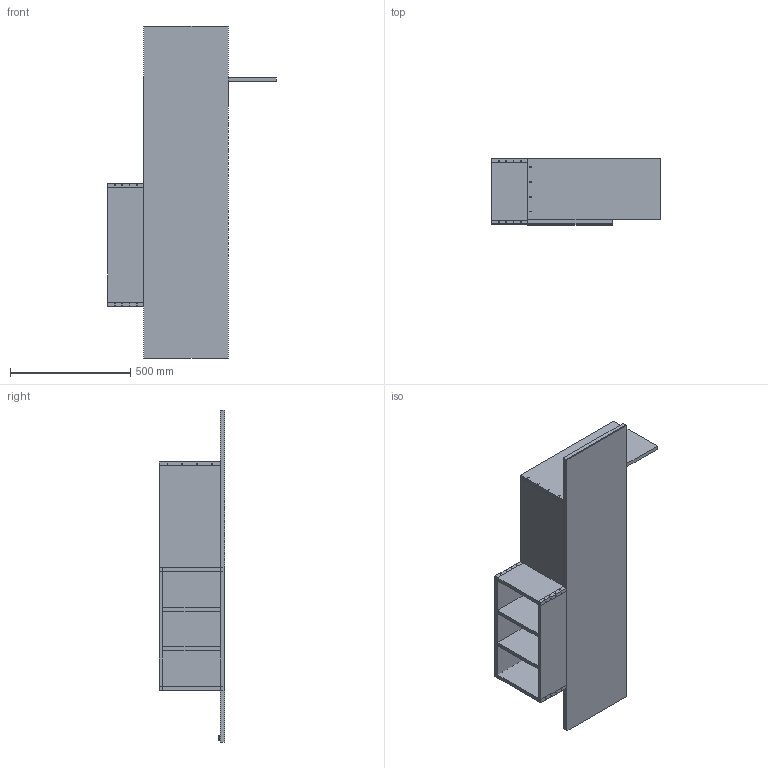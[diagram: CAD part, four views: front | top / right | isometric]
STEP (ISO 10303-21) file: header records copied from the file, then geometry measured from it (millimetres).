
FILE_DESCRIPTION(/* description */ (''),/* implementation_level */ '2;1');
FILE_NAME(/* name */ 'Bon Hallway Cabinet_3D',/* time_stamp */ '2024-09-03T15:55:17+02:00',/* author */ (''),/* organization */ (''),/* preprocessor_version */ 'ST-DEVELOPER v16.5',/* originating_system */ 'Rhino 7.37',/* authorisation */ '');
FILE_SCHEMA (('CONFIG_CONTROL_DESIGN'));
Length unit declared in the file: millimetre
Products named in the file (1): Document
Bounding box: 700 x 274.1 x 1380 mm (x, y, z)
Volume: 22603666.2 mm3; surface area: 3836797 mm2
Topology: 80 solids, 80 shells, 732 faces, 1764 edges, 1192 vertices
Faces by surface type: plane 595, bspline 136, cylinder 1
Entity records: 29635 total; most frequent: CARTESIAN_POINT 17199, ORIENTED_EDGE 3432, B_SPLINE_CURVE_WITH_KNOTS 1764, EDGE_CURVE 1716, VERTEX_POINT 1144, EDGE_LOOP 734, ADVANCED_FACE 732, FACE_OUTER_BOUND 732
